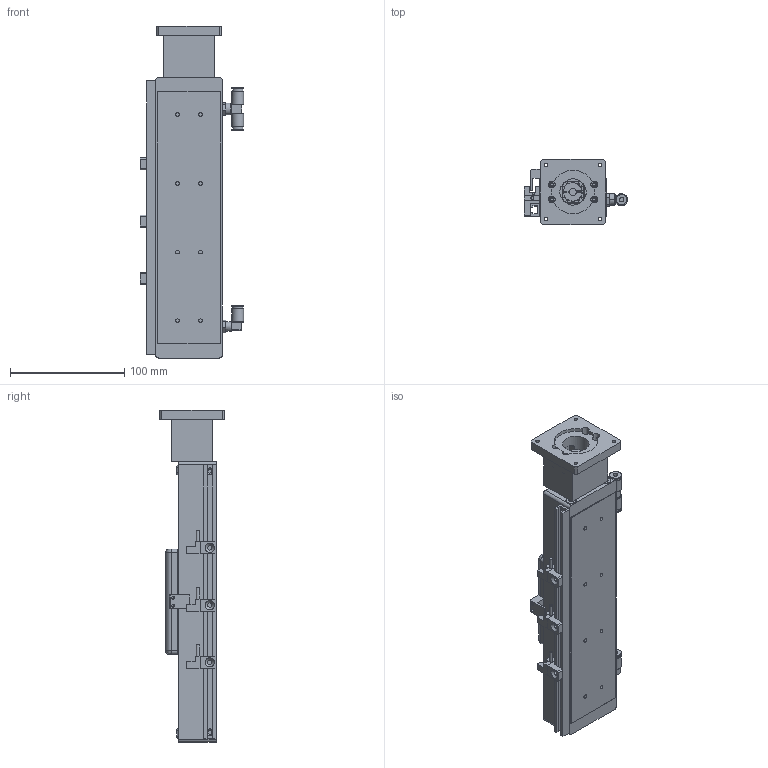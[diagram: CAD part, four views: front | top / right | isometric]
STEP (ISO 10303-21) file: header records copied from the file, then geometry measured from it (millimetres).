
FILE_DESCRIPTION((''),'2;1');
FILE_NAME('E:\catalogue and flyer\actuator catalogue 2015\dwg fr wg\UIA058CR7DC\UIA058CR7DC change cover strip 09May16\UIA058CR7DC-stp file 09May16\UIA058CR7DC-100-R0803-M23-P13-C10.stp','2016-05-09T14:14:12',('h029'),(''),'Autodesk Inventor 11','Autodesk Inventor 11','');
FILE_SCHEMA(('AUTOMOTIVE_DESIGN { 1 0 10303 214 1 1 1 1 }'));
Length unit declared in the file: millimetre
Products named in the file (14): UIA058CR7DC-100; UIA058CR7DC-body; GWL4-M5; GWT4-M5; Sensor Rail; Sensor Bracket; PM-L24; 19-100 0110 M23 Motor House; carriage-new; 19-100 0071 sensor flag; SOH-16C; SOH-16C-3; SOH-16C-2; SOH-16C-1
Assembly tree (17 placements, depth 3):
  UIA058CR7DC-100
    UIA058CR7DC-body
    GWL4-M5
    GWT4-M5
    Sensor Rail
    Sensor Bracket  x3
    PM-L24  x3
    19-100 0110 M23 Motor House
    carriage-new
    19-100 0071 sensor flag
    SOH-16C
      SOH-16C-3
      SOH-16C-2
      SOH-16C-1
Bounding box: 90.1 x 57 x 290 mm (x, y, z)
Volume: 601270.4 mm3; surface area: 111175.8 mm2
Topology: 16 solids, 16 shells, 685 faces, 1730 edges, 1124 vertices
Faces by surface type: plane 399, cylinder 139, bspline 129, cone 10, sphere 8
Full cylindrical faces by diameter (mm): 2.459 x4, 2.5 x5, 4 x2, 5 x5, 6 x4, 6.35 x1, 8.6 x2, 9 x2, 16 x3, 23 x1
Entity records: 18601 total; most frequent: CARTESIAN_POINT 4839, DIRECTION 2758, ORIENTED_EDGE 2628, EDGE_CURVE 1314, AXIS2_PLACEMENT_3D 957, VERTEX_POINT 901, VECTOR 844, LINE 844
